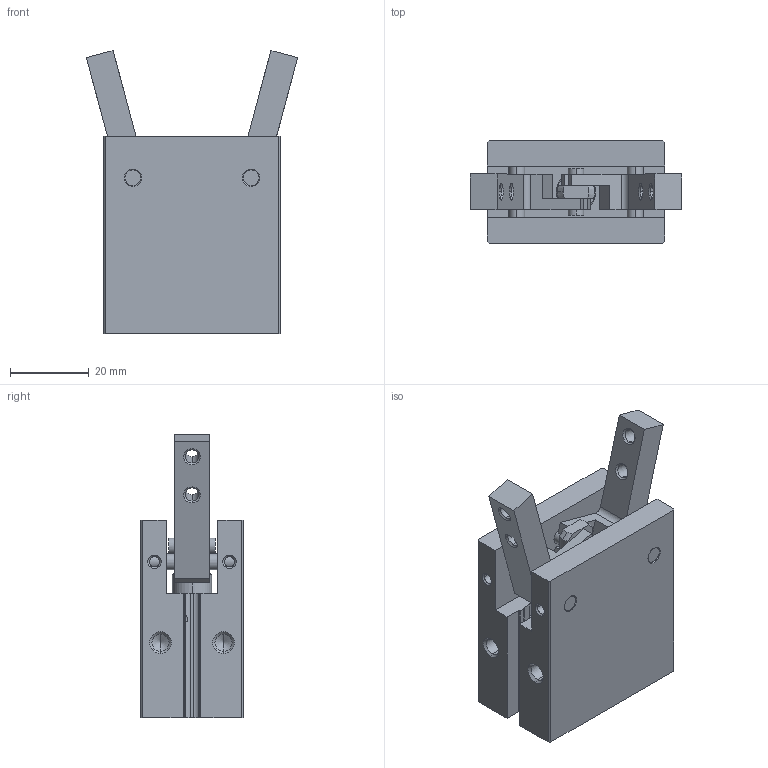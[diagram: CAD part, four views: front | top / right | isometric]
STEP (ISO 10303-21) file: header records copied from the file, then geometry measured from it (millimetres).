
FILE_DESCRIPTION (( 'STEP AP214' ), '1' );
FILE_NAME ('MCHA-20.STEP', '2013-10-22T20:45:55', ( 'user' ), ( '' ), 'SwSTEP 2.0', 'SolidWorks 2009', '' );
FILE_SCHEMA (( 'AUTOMOTIVE_DESIGN' ));
Length unit declared in the file: millimetre
Products named in the file (1): MCHA-20
Bounding box: 53.58 x 26 x 71.8 mm (x, y, z)
Volume: 48466.9 mm3; surface area: 17756.8 mm2
Topology: 1 solids, 5 shells, 257 faces, 658 edges, 405 vertices
Faces by surface type: cylinder 97, plane 86, cone 74
Entity records: 8181 total; most frequent: CARTESIAN_POINT 1773, DIRECTION 1364, ORIENTED_EDGE 1268, EDGE_CURVE 634, AXIS2_PLACEMENT_3D 500, VERTEX_POINT 403, LINE 364, VECTOR 364
